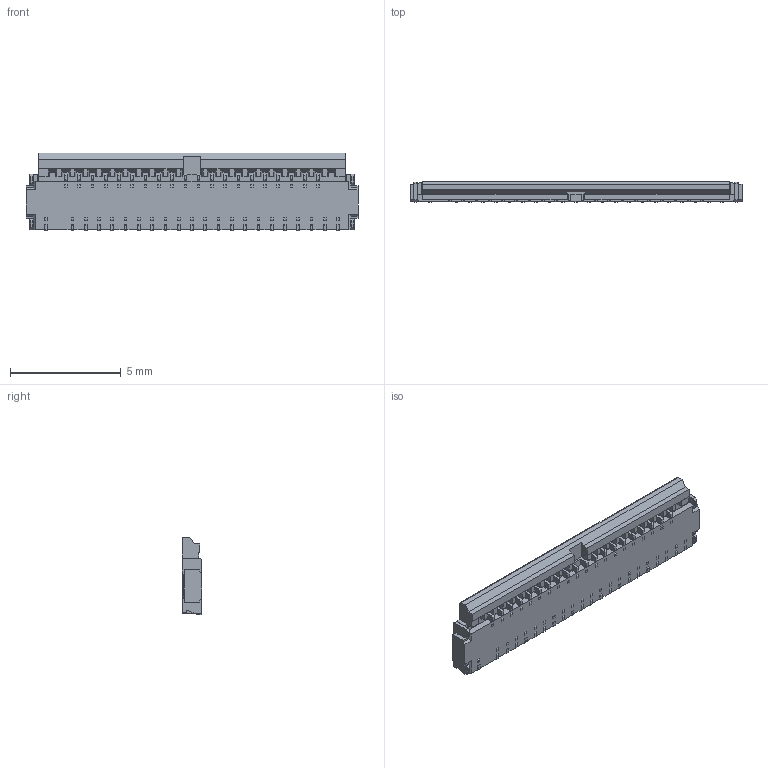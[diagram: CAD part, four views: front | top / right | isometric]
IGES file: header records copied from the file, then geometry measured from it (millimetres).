
Start section: SolidWorks IGES file using analytic representation for surfaces
Global section: file name: C:\3dworks\摗堜\170920_3D儌僨儖\廋惓\MFX3-BFN L-LK-HD (20655)\40P\20655-040ExC ASS'Y ACT CLOSE STEP R0 ALL.IGS; native system: SolidWorks 2014; preprocessor: SolidWorks 2014; author: ieng2-005; date: 170929.171923; units: millimetre
Bounding box: 15 x 0.9 x 3.5 mm (x, y, z)
Surface area: 157.4 mm2 (no closed solid volume)
Topology: 0 solids, 0 shells, 1593 faces, 9079 edges, 9079 vertices
Faces by surface type: bspline 1424, revolution 169
